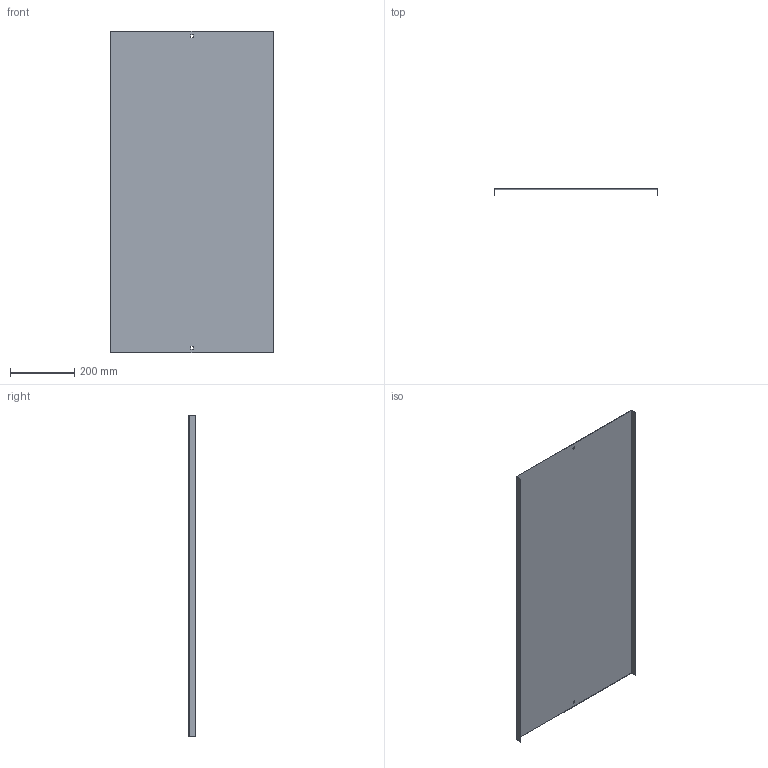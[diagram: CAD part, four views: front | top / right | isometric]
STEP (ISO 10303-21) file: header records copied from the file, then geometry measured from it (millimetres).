
FILE_DESCRIPTION (( 'STEP AP214' ), '1' );
FILE_NAME ('05G1R500.step', '2025-02-21T13:06:57', ( '' ), ( '' ), 'SwSTEP 2.0', 'SolidWorks 2023', '' );
FILE_SCHEMA (( 'AUTOMOTIVE_DESIGN' ));
Length unit declared in the file: millimetre
Products named in the file (1): 05G1R500
Bounding box: 507 x 20 x 1000 mm (x, y, z)
Volume: 815824.5 mm3; surface area: 1092491 mm2
Topology: 1 solids, 1 shells, 18 faces, 48 edges, 32 vertices
Faces by surface type: plane 18
Entity records: 583 total; most frequent: CARTESIAN_POINT 99, ORIENTED_EDGE 96, DIRECTION 86, EDGE_CURVE 48, LINE 48, VECTOR 48, VERTEX_POINT 32, EDGE_LOOP 22
